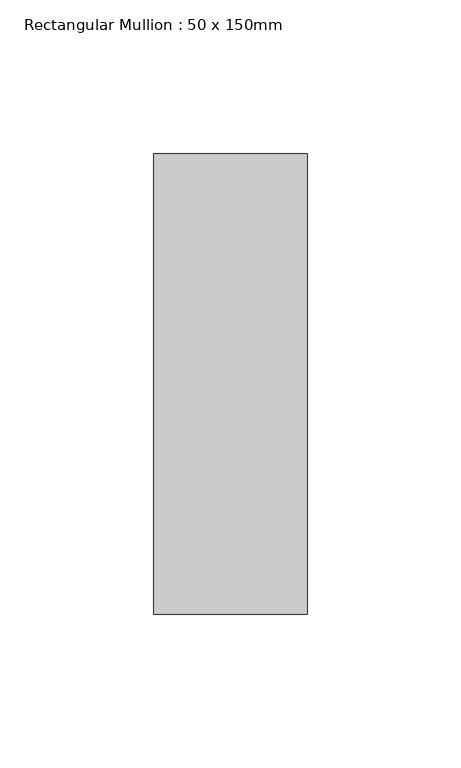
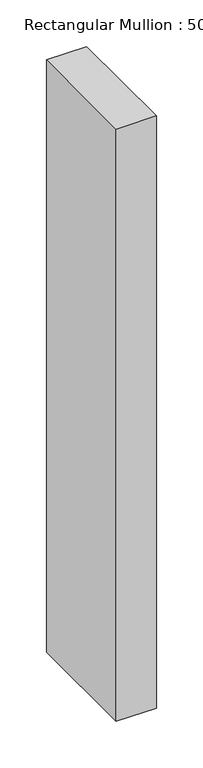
"""IFC4 building model written with IfcOpenShell, lengths in millimetres: member geometry, Rectangular Mullion : 50 x 150mm."""

from ifc_helpers import new_model, si_unit, frame, origin, place, context, project, spatial, polyline, outline, extrude, source, transform, mapped, element, save


def rectangular_mullion_50_x_150mm_48361b01(model_context):
    return source(origin(), model_context, "Body", "SweptSolid", [
        extrude(outline(polyline([(0.0, 75.0), (0.0, -75.0), (-50.0, -75.0), (-50.0, 75.0), (0.0, 75.0)])), frame((0.0, 0.0, -775.8577186), z_axis=(0.0, 0.0, 1.0), x_axis=(1.0, 0.0, 0.0)), (0.0, 0.0, 1.0), 775.8577186),
    ])


if __name__ == "__main__":
    model = new_model("IFC4")
    model_context = context("Model", 3, world=origin())
    ifc_project = project(units=[si_unit("LENGTHUNIT", "METRE", prefix="MILLI")], contexts=[model_context])
    site = spatial("IfcSite", under=ifc_project)
    building = spatial("IfcBuilding", under=site)
    placement = place(None, origin())
    rectangular_mullion_50_x_150mm_shape = rectangular_mullion_50_x_150mm_48361b01(model_context)
    element("IfcMember", 1, ObjectType="Rectangular Mullion : 50 x 150mm", at=placement, inside=building, context=model_context, shape_type="MappedRepresentation", body=[
        mapped(rectangular_mullion_50_x_150mm_shape, transform((0.0, 0.0, 0.0), x_axis=(1.0, 0.0, 0.0), y_axis=(0.0, 1.0, 0.0), z_axis=(0.0, 0.0, 1.0))),
    ])
    save(model, "model.ifc")
